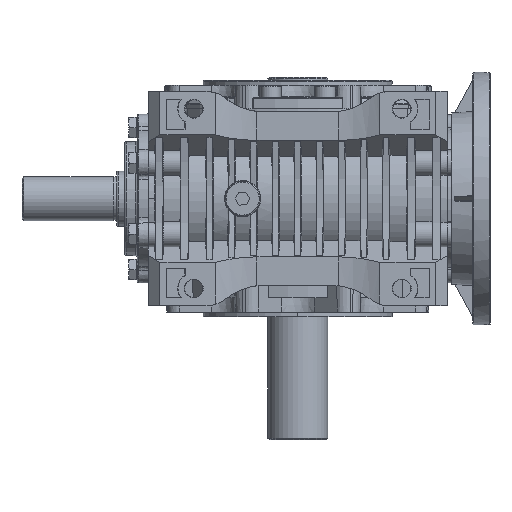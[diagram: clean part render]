
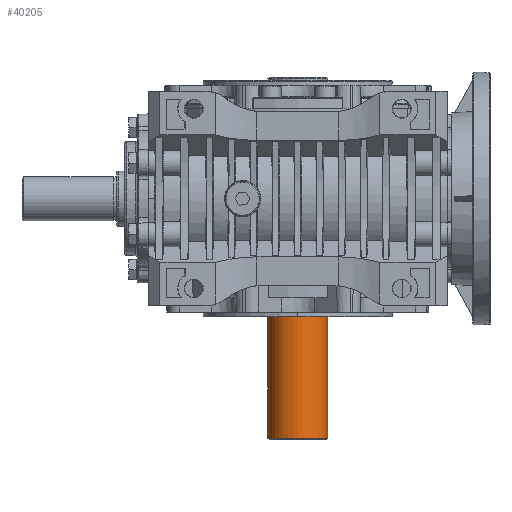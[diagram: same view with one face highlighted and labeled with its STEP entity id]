
A CAD part, front view. The second image highlights one B-rep face of the part: STEP entity #40205.
In plain terms, the highlighted cylindrical face has radius 19 mm (diameter 38 mm), a partial arc.
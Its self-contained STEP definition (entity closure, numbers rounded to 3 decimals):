
#3287 = CARTESIAN_POINT ( 'NONE',  ( -19., 0., -75. ) ) ;
#5560 = CARTESIAN_POINT ( 'NONE',  ( 19., 0., -152. ) ) ;
#5757 = CIRCLE ( 'NONE', #12990, 19. ) ;
#7226 = CARTESIAN_POINT ( 'NONE',  ( 0., 0., -69. ) ) ;
#9112 = EDGE_CURVE ( 'NONE', #68955, #101005, #49041, .T. ) ;
#11515 = VECTOR ( 'NONE', #20271, 1000. ) ;
#12990 = AXIS2_PLACEMENT_3D ( 'NONE', #44061, #85446, #103600 ) ;
#15757 = FACE_OUTER_BOUND ( 'NONE', #48394, .T. ) ;
#17613 = ORIENTED_EDGE ( 'NONE', *, *, #9112, .T. ) ;
#20271 = DIRECTION ( 'NONE',  ( 0., 0., 1. ) ) ;
#33339 = DIRECTION ( 'NONE',  ( 0., 0., 1. ) ) ;
#33614 = DIRECTION ( 'NONE',  ( 1., 0., 0. ) ) ;
#40205 = ADVANCED_FACE ( 'NONE', ( #15757 ), #50306, .T. ) ;
#41545 = EDGE_CURVE ( 'NONE', #101005, #79034, #90520, .T. ) ;
#43513 = DIRECTION ( 'NONE',  ( 1., 0., 0. ) ) ;
#44061 = CARTESIAN_POINT ( 'NONE',  ( 0., 0., -75. ) ) ;
#45337 = EDGE_CURVE ( 'NONE', #59822, #79034, #5757, .T. ) ;
#48394 = EDGE_LOOP ( 'NONE', ( #73415, #17613, #77958, #63319 ) ) ;
#49041 = CIRCLE ( 'NONE', #105251, 19. ) ;
#50306 = CYLINDRICAL_SURFACE ( 'NONE', #86061, 19. ) ;
#57139 = VECTOR ( 'NONE', #101521, 1000. ) ;
#59822 = VERTEX_POINT ( 'NONE', #3287 ) ;
#63319 = ORIENTED_EDGE ( 'NONE', *, *, #45337, .F. ) ;
#66946 = CARTESIAN_POINT ( 'NONE',  ( -19., 0., -69. ) ) ;
#68955 = VERTEX_POINT ( 'NONE', #106239 ) ;
#73415 = ORIENTED_EDGE ( 'NONE', *, *, #102364, .F. ) ;
#73533 = CARTESIAN_POINT ( 'NONE',  ( 19., 0., -69. ) ) ;
#75459 = LINE ( 'NONE', #66946, #57139 ) ;
#77958 = ORIENTED_EDGE ( 'NONE', *, *, #41545, .T. ) ;
#79034 = VERTEX_POINT ( 'NONE', #98130 ) ;
#85446 = DIRECTION ( 'NONE',  ( 0., 0., 1. ) ) ;
#86061 = AXIS2_PLACEMENT_3D ( 'NONE', #7226, #33339, #43513 ) ;
#87436 = CARTESIAN_POINT ( 'NONE',  ( 0., 0., -152. ) ) ;
#90520 = LINE ( 'NONE', #73533, #11515 ) ;
#93697 = DIRECTION ( 'NONE',  ( 0., 0., 1. ) ) ;
#98130 = CARTESIAN_POINT ( 'NONE',  ( 19., 0., -75. ) ) ;
#101005 = VERTEX_POINT ( 'NONE', #5560 ) ;
#101521 = DIRECTION ( 'NONE',  ( 0., 0., 1. ) ) ;
#102364 = EDGE_CURVE ( 'NONE', #68955, #59822, #75459, .T. ) ;
#103600 = DIRECTION ( 'NONE',  ( 1., 0., 0. ) ) ;
#105251 = AXIS2_PLACEMENT_3D ( 'NONE', #87436, #93697, #33614 ) ;
#106239 = CARTESIAN_POINT ( 'NONE',  ( -19., 0., -152. ) ) ;
